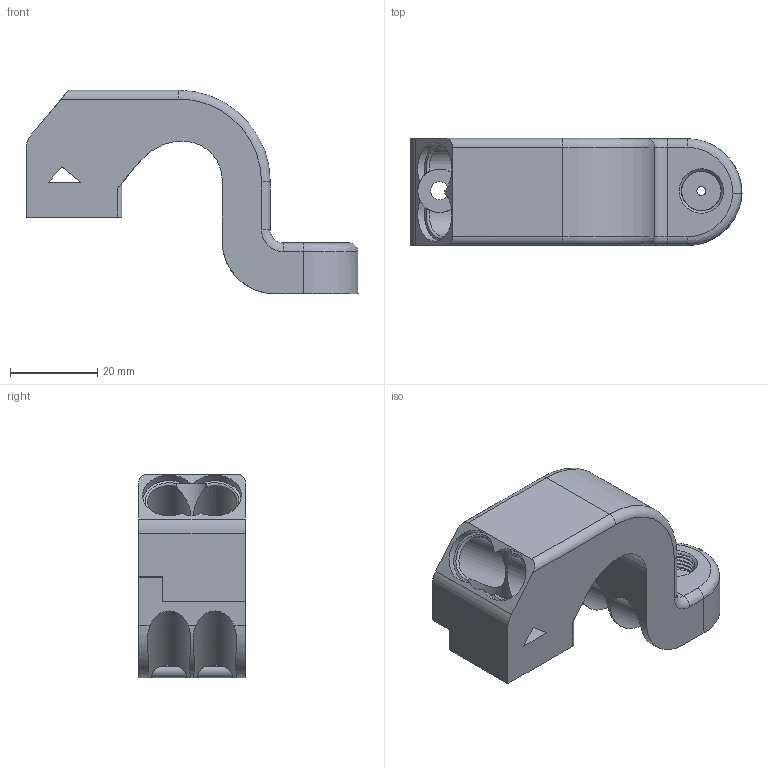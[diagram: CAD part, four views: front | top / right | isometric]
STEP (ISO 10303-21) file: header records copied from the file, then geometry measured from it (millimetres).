
FILE_DESCRIPTION(/* description */ (''),/* implementation_level */ '2;1');
FILE_NAME(/* name */ 'D:/Down/Druck/Schlauchhalter v12.step',/* time_stamp */ '2022-02-09T16:27:20+07:00',/* author */ (''),/* organization */ (''),/* preprocessor_version */ 'ST-DEVELOPER v18.1',/* originating_system */ 'Autodesk Translation Framework v10.13.0.1454',/* authorisation */ '');
FILE_SCHEMA (('AUTOMOTIVE_DESIGN { 1 0 10303 214 3 1 1 }'));
Length unit declared in the file: millimetre
Products named in the file (2): Schlauchhalter; Schlauchhalter_1
Assembly tree (1 placements, depth 2):
  Schlauchhalter
    Schlauchhalter_1
Bounding box: 76.12 x 24.5 x 46.64 mm (x, y, z)
Volume: 28906.7 mm3; surface area: 10784.7 mm2
Topology: 1 solids, 1 shells, 97 faces, 284 edges, 184 vertices
Faces by surface type: cylinder 42, plane 31, bspline 12, torus 10, sphere 1, cone 1
Full cylindrical faces by diameter (mm): 2.1 x1, 4.2 x1, 9.036 x3, 10 x3, 10.147 x4, 12.1 x1
Entity records: 5466 total; most frequent: CARTESIAN_POINT 2896, ORIENTED_EDGE 566, DIRECTION 495, EDGE_CURVE 283, AXIS2_PLACEMENT_3D 195, VERTEX_POINT 184, EDGE_LOOP 105, LINE 105
